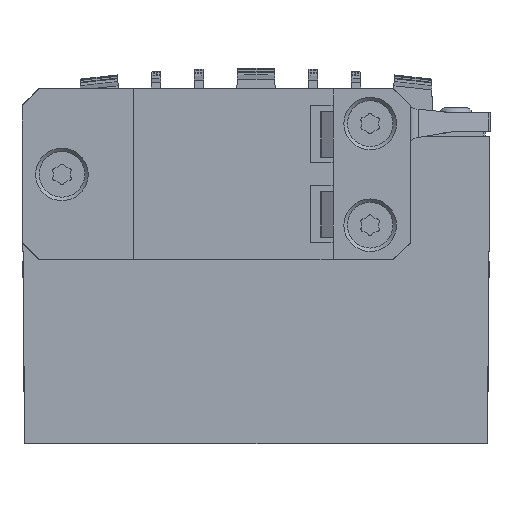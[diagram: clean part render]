
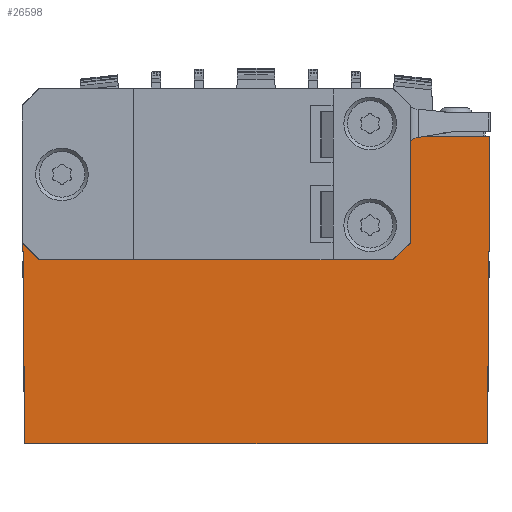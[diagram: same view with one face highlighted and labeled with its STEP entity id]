
A CAD part, front view. The second image highlights one B-rep face of the part: STEP entity #26598.
In plain terms, the highlighted planar face has unit normal (0, -1, -0.009).
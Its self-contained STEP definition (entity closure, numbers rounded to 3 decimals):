
#1107=PLANE('',#28410);
#2201=FACE_OUTER_BOUND('',#3677,.T.);
#3677=EDGE_LOOP('',(#19916,#19917,#19918,#19919,#19920,#19921,#19922,#19923));
#5555=LINE('',#38599,#8328);
#5585=LINE('',#38677,#8358);
#5833=LINE('',#39226,#8606);
#5835=LINE('',#39230,#8608);
#5836=LINE('',#39231,#8609);
#5837=LINE('',#39233,#8610);
#5838=LINE('',#39235,#8611);
#5839=LINE('',#39236,#8612);
#8328=VECTOR('',#31741,10.);
#8358=VECTOR('',#31801,10.);
#8606=VECTOR('',#32339,10.);
#8608=VECTOR('',#32343,10.);
#8609=VECTOR('',#32344,10.);
#8610=VECTOR('',#32345,10.);
#8611=VECTOR('',#32346,10.);
#8612=VECTOR('',#32347,10.);
#11809=VERTEX_POINT('',#38596);
#11810=VERTEX_POINT('',#38598);
#11842=VERTEX_POINT('',#38674);
#11843=VERTEX_POINT('',#38676);
#11999=VERTEX_POINT('',#39224);
#12000=VERTEX_POINT('',#39229);
#12001=VERTEX_POINT('',#39232);
#12002=VERTEX_POINT('',#39234);
#14640=EDGE_CURVE('',#11810,#11809,#5555,.T.);
#14679=EDGE_CURVE('',#11843,#11842,#5585,.T.);
#14954=EDGE_CURVE('',#11999,#11809,#5833,.T.);
#14956=EDGE_CURVE('',#12000,#11999,#5835,.T.);
#14957=EDGE_CURVE('',#11843,#12000,#5836,.T.);
#14958=EDGE_CURVE('',#12001,#11842,#5837,.T.);
#14959=EDGE_CURVE('',#12002,#12001,#5838,.T.);
#14960=EDGE_CURVE('',#11810,#12002,#5839,.T.);
#19916=ORIENTED_EDGE('',*,*,#14954,.F.);
#19917=ORIENTED_EDGE('',*,*,#14956,.F.);
#19918=ORIENTED_EDGE('',*,*,#14957,.F.);
#19919=ORIENTED_EDGE('',*,*,#14679,.T.);
#19920=ORIENTED_EDGE('',*,*,#14958,.F.);
#19921=ORIENTED_EDGE('',*,*,#14959,.F.);
#19922=ORIENTED_EDGE('',*,*,#14960,.F.);
#19923=ORIENTED_EDGE('',*,*,#14640,.T.);
#26598=ADVANCED_FACE('',(#2201),#1107,.T.);
#28410=AXIS2_PLACEMENT_3D('',#39228,#32341,#32342);
#31741=DIRECTION('',(-1.,0.,0.));
#31801=DIRECTION('',(-1.,0.,0.));
#32339=DIRECTION('',(-0.009,-0.009,1.));
#32341=DIRECTION('center_axis',(0.,-1.,
-0.009));
#32342=DIRECTION('ref_axis',(0.,0.009,-1.));
#32343=DIRECTION('',(-1.,0.,0.));
#32344=DIRECTION('',(-0.009,0.009,-1.));
#32345=DIRECTION('',(0.,0.009,-1.));
#32346=DIRECTION('',(1.,0.,0.));
#32347=DIRECTION('',(0.,-0.009,1.));
#38596=CARTESIAN_POINT('',(-41.,-41.,0.75));
#38598=CARTESIAN_POINT('',(-36.05,-41.,0.75));
#38599=CARTESIAN_POINT('',(-41.,-41.,0.75));
#38674=CARTESIAN_POINT('',(37.2,-41.,0.75));
#38676=CARTESIAN_POINT('',(41.,-41.,0.75));
#38677=CARTESIAN_POINT('',(-41.,-41.,0.75));
#39224=CARTESIAN_POINT('',(-40.53,-40.53,-53.05));
#39226=CARTESIAN_POINT('',(-40.762,-40.762,-26.505));
#39228=CARTESIAN_POINT('Origin',(-41.,-40.765,-26.149));
#39229=CARTESIAN_POINT('',(40.53,-40.53,-53.05));
#39230=CARTESIAN_POINT('',(-20.5,-40.53,-53.05));
#39231=CARTESIAN_POINT('',(40.762,-40.762,-26.505));
#39232=CARTESIAN_POINT('',(37.2,-41.001,0.85));
#39233=CARTESIAN_POINT('',(37.2,-40.941,-6.032));
#39234=CARTESIAN_POINT('',(-36.05,-41.001,0.85));
#39235=CARTESIAN_POINT('',(18.888,-41.001,0.85));
#39236=CARTESIAN_POINT('',(-36.05,-40.976,-2.033));
